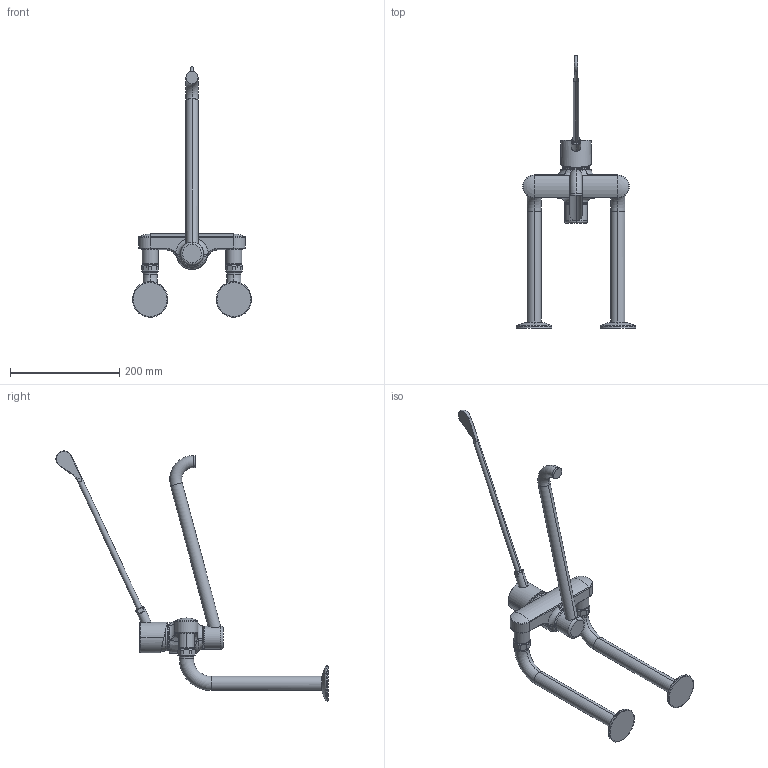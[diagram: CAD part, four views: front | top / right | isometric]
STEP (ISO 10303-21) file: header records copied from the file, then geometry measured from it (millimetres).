
FILE_DESCRIPTION((''),'2;1');
FILE_NAME('K246244000B87','2016-03-08T',('azb9'),(''),'PRO/ENGINEER BY PARAMETRIC TECHNOLOGY CORPORATION, 2014000','PRO/ENGINEER BY PARAMETRIC TECHNOLOGY CORPORATION, 2014000','');
FILE_SCHEMA(('CONFIG_CONTROL_DESIGN'));
Length unit declared in the file: millimetre
Products named in the file (1): K246244000B87
Bounding box: 218 x 497.59 x 457.59 mm (x, y, z)
Volume: 904750.2 mm3; surface area: 190571.1 mm2
Topology: 6 solids, 6 shells, 325 faces, 742 edges, 449 vertices
Faces by surface type: cylinder 94, plane 85, cone 54, torus 52, bspline 25, sphere 13, extrusion 2
Entity records: 13220 total; most frequent: CARTESIAN_POINT 5914, DIRECTION 1611, ORIENTED_EDGE 1472, EDGE_CURVE 736, AXIS2_PLACEMENT_3D 701, VERTEX_POINT 449, CIRCLE 401, EDGE_LOOP 351
